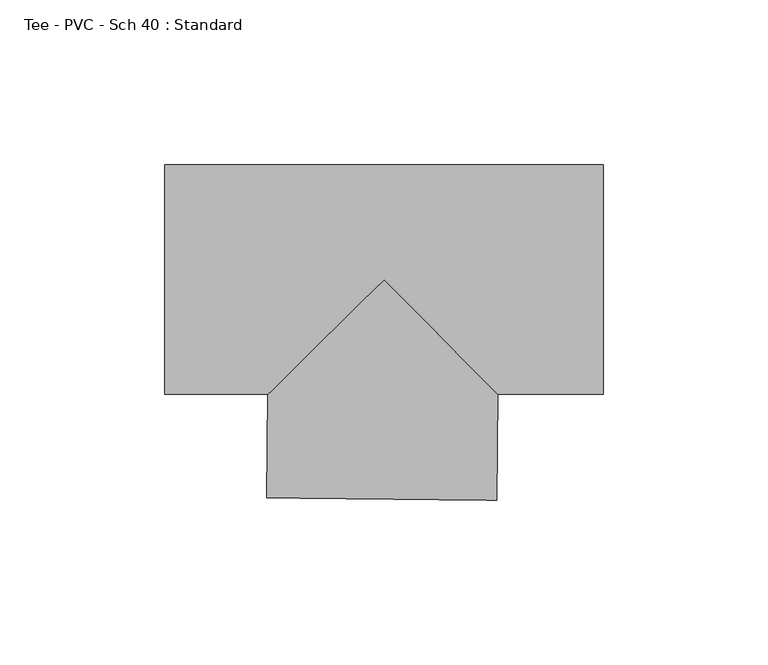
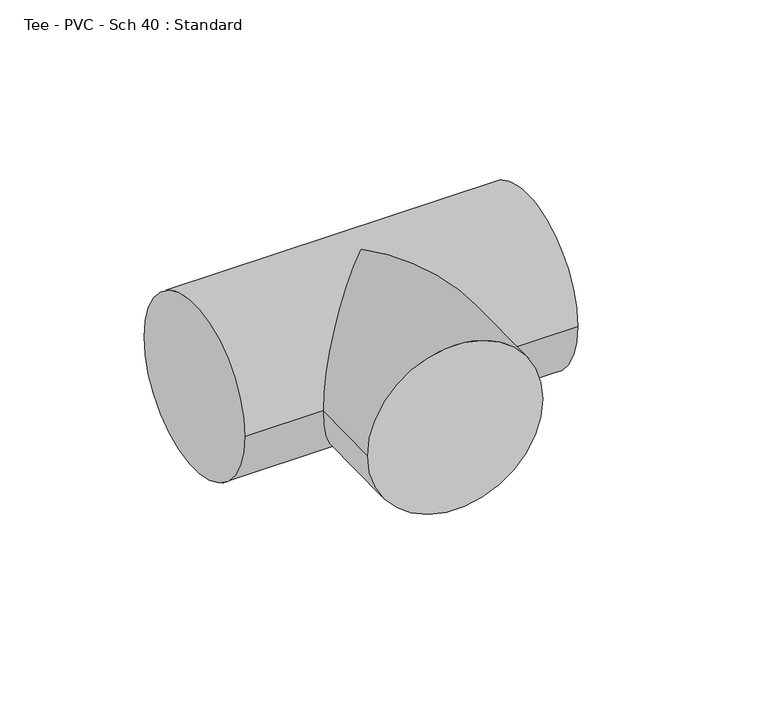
"""IFC4 building model written with IfcOpenShell, lengths in millimetres: pipe fitting geometry, Tee - PVC - Sch 40 : Standard."""

from ifc_helpers import new_model, si_unit, frame, origin, place, context, project, spatial, circle_curve, ellipse_curve, source, transform, mapped, element, save
from ifc_brep_helpers import plane_surface, cylinder_surface, advanced_brep


def tee_pvc_sch_40_standard_b08d6211(model_context):
    return source(origin(), model_context, "Body", "AdvancedBrep", [
        advanced_brep(
        [(-66.675, -34.925, 0.0), (-66.675, 34.925, 0.0), (66.675, -34.925, 0.0), (66.675, 34.925, 0.0), (-35.2906968, -34.925, 0.0), (0.0, 0.0, 34.925), (34.5630927, -34.925, 0.0), (0.0, 0.0, -34.925), (-35.6175989, -66.3076006, 0.0), (34.2286118, -67.0351653, 0.0)],
        [
            (0, 1, circle_curve(frame((-66.675, 0.0, 0.0), z_axis=(-1.0, 0.0, 0.0), x_axis=(0.0, 1.0, 0.0)), 34.925)),
            (1, 0, circle_curve(frame((-66.675, 0.0, 0.0), z_axis=(-1.0, 0.0, 0.0), x_axis=(0.0, 1.0, 0.0)), 34.925)),
            (2, 3, circle_curve(frame((66.675, 0.0, 0.0), z_axis=(1.0, 0.0, 0.0), x_axis=(0.0, 1.0, 0.0)), 34.925)),
            (3, 2, circle_curve(frame((66.675, 0.0, 0.0), z_axis=(1.0, 0.0, 0.0), x_axis=(0.0, 1.0, 0.0)), 34.925)),
            (0, 4),
            (4, 5, ellipse_curve(frame((0.0, 0.0, 0.0), z_axis=(-0.7034144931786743, 0.710779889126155, 0.0), x_axis=(-0.7107798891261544, -0.7034144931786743, 0.0)), 49.6506688, 34.925)),
            (5, 6, ellipse_curve(frame((0.0, 0.0, 0.0), z_axis=(0.7107798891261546, 0.7034144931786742, 0.0), x_axis=(-0.7034144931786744, 0.7107798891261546, 0.0)), 49.1361679, 34.925)),
            (6, 2),
            (3, 1),
            (6, 7, ellipse_curve(frame((0.0, 0.0, 0.0), z_axis=(0.7107798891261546, 0.7034144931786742, 0.0), x_axis=(-0.7034144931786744, 0.7107798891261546, 0.0)), 49.1361679, 34.925)),
            (7, 4, ellipse_curve(frame((0.0, 0.0, 0.0), z_axis=(-0.7034144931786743, 0.710779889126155, 0.0), x_axis=(-0.7107798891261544, -0.7034144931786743, 0.0)), 49.6506688, 34.925)),
            (8, 9, circle_curve(frame((-0.6944936, -66.6713829, 0.0), z_axis=(-0.010416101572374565, -0.9999457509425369, 0.0), x_axis=(0.9999457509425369, -0.010416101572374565, 0.0)), 34.925)),
            (9, 8, circle_curve(frame((-0.6944936, -66.6713829, 0.0), z_axis=(-0.010416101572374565, -0.9999457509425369, 0.0), x_axis=(0.9999457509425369, -0.010416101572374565, 0.0)), 34.925)),
            (9, 6),
            (4, 8),
        ],
        [
            plane_surface(frame((-66.675, 0.0, 0.0), z_axis=(-1.0, 0.0, 0.0), x_axis=(0.0, 0.0, 1.0))),
            plane_surface(frame((66.675, 0.0, 0.0), z_axis=(1.0, 0.0, 0.0), x_axis=(0.0, 0.0, 1.0))),
            cylinder_surface(frame((-66.675, 0.0, 0.0), z_axis=(-1.0, 0.0, 0.0), x_axis=(0.0, 1.0, 0.0)), 34.925),
            plane_surface(frame((-0.6944936, -66.6713829, 0.0), z_axis=(-0.010416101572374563, -0.9999457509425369, 0.0), x_axis=(0.0, 0.0, 1.0))),
            cylinder_surface(frame((0.0, 0.0, 0.0), z_axis=(0.010416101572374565, 0.9999457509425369, 0.0), x_axis=(0.9999457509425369, -0.010416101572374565, 0.0)), 34.925),
        ],
        [
            (0, [[1, 2]]),
            (1, [[3, 4]]),
            (2, [[-1, 5, 6, 7, 8, -4, 9]]),
            (2, [[-2, -9, -3, -8, 10, 11, -5]]),
            (3, [[12, 13]]),
            (4, [[-13, 14, -7, -6, 15]]),
            (4, [[-12, -15, -11, -10, -14]]),
        ],
    ),
    ])


if __name__ == "__main__":
    model = new_model("IFC4")
    model_context = context("Model", 3, world=origin())
    ifc_project = project(units=[si_unit("LENGTHUNIT", "METRE", prefix="MILLI")], contexts=[model_context])
    site = spatial("IfcSite", under=ifc_project)
    building = spatial("IfcBuilding", under=site)
    placement = place(None, origin())
    tee_pvc_sch_40_standard_shape = tee_pvc_sch_40_standard_b08d6211(model_context)
    element("IfcPipeFitting", 1, ObjectType="Tee - PVC - Sch 40 : Standard", at=placement, inside=building, context=model_context, shape_type="MappedRepresentation", body=[
        mapped(tee_pvc_sch_40_standard_shape, transform((0.0, 0.0, 0.0), x_axis=(1.0, 0.0, 0.0), y_axis=(0.0, 1.0, 0.0), z_axis=(0.0, 0.0, 1.0))),
    ])
    save(model, "model.ifc")
